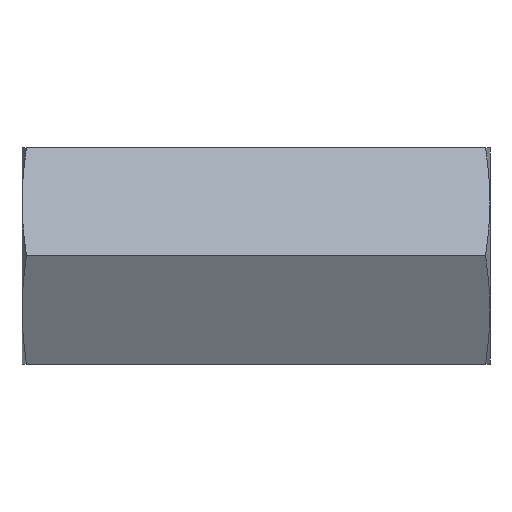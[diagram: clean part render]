
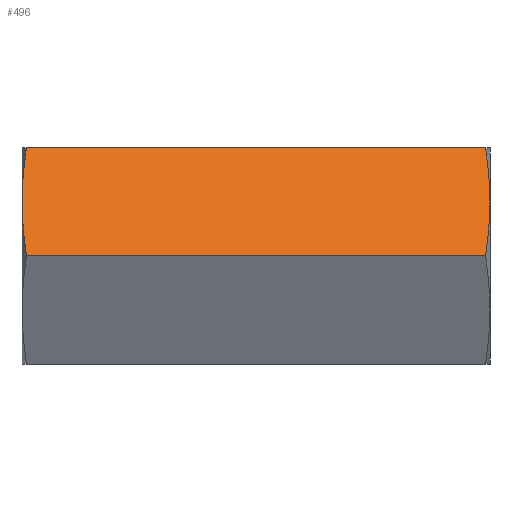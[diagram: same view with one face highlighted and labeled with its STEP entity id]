
A CAD part, top view. The second image highlights one B-rep face of the part: STEP entity #496.
In plain terms, the highlighted planar face has unit normal (0, 0.5, 0.866).
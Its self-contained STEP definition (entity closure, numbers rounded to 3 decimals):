
#496 = ADVANCED_FACE( '', ( #1134 ), #1135, .F. );
#1134 = FACE_OUTER_BOUND( '', #6307, .T. );
#1135 = PLANE( '', #6308 );
#6307 = EDGE_LOOP( '', ( #19270, #19271, #19272, #19273, #19274, #19275, #19276, #19277, #19278, #19279 ) );
#6308 = AXIS2_PLACEMENT_3D( '', #19280, #19281, #19282 );
#19270 = ORIENTED_EDGE( '', *, *, #21163, .F. );
#19271 = ORIENTED_EDGE( '', *, *, #21364, .T. );
#19272 = ORIENTED_EDGE( '', *, *, #21137, .T. );
#19273 = ORIENTED_EDGE( '', *, *, #21365, .T. );
#19274 = ORIENTED_EDGE( '', *, *, #21298, .T. );
#19275 = ORIENTED_EDGE( '', *, *, #21366, .T. );
#19276 = ORIENTED_EDGE( '', *, *, #21278, .F. );
#19277 = ORIENTED_EDGE( '', *, *, #21367, .F. );
#19278 = ORIENTED_EDGE( '', *, *, #21250, .F. );
#19279 = ORIENTED_EDGE( '', *, *, #21368, .F. );
#19280 = CARTESIAN_POINT( '', ( 54.94, 12.7, 7.332 ) );
#19281 = DIRECTION( '', ( 0., -0.5, -0.866 ) );
#19282 = DIRECTION( '', ( 0., 0.866, -0.5 ) );
#21137 = EDGE_CURVE( '', #22214, #22216, #22218, .T. );
#21163 = EDGE_CURVE( '', #22258, #22259, #22260, .T. );
#21250 = EDGE_CURVE( '', #22394, #22012, #22396, .T. );
#21278 = EDGE_CURVE( '', #22438, #22440, #22441, .T. );
#21298 = EDGE_CURVE( '', #22472, #22473, #22474, .T. );
#21364 = EDGE_CURVE( '', #22258, #22214, #22573, .T. );
#21365 = EDGE_CURVE( '', #22216, #22472, #22574, .T. );
#21366 = EDGE_CURVE( '', #22473, #22440, #22575, .T. );
#21367 = EDGE_CURVE( '', #22012, #22438, #22576, .T. );
#21368 = EDGE_CURVE( '', #22259, #22394, #22577, .T. );
#22012 = VERTEX_POINT( '', #27852 );
#22214 = VERTEX_POINT( '', #28326 );
#22216 = VERTEX_POINT( '', #28338 );
#22218 = B_SPLINE_CURVE_WITH_KNOTS( '', 3, ( #28340, #28341, #28342, #28343, #28344, #28345, #28346, #28347, #28348, #28349, #28350 ), .UNSPECIFIED., .F., .F., ( 4, 2, 2, 2, 1, 4 ), ( 0., 0.002, 0.003, 0.005, 0.006, 0.006 ), .UNSPECIFIED. );
#22258 = VERTEX_POINT( '', #28414 );
#22259 = VERTEX_POINT( '', #28415 );
#22260 = B_SPLINE_CURVE_WITH_KNOTS( '', 3, ( #28416, #28417, #28418, #28419, #28420, #28421, #28422, #28423, #28424, #28425, #28426 ), .UNSPECIFIED., .F., .F., ( 4, 2, 2, 2, 1, 4 ), ( 0., 0.002, 0.003, 0.005, 0.006, 0.006 ), .UNSPECIFIED. );
#22394 = VERTEX_POINT( '', #32609 );
#22396 = B_SPLINE_CURVE_WITH_KNOTS( '', 3, ( #32614, #32615, #32616, #32617 ), .UNSPECIFIED., .F., .F., ( 4, 4 ), ( 0.007, 0.008 ), .UNSPECIFIED. );
#22438 = VERTEX_POINT( '', #32683 );
#22440 = VERTEX_POINT( '', #32695 );
#22441 = LINE( '', #32696, #32697 );
#22472 = VERTEX_POINT( '', #32772 );
#22473 = VERTEX_POINT( '', #32773 );
#22474 = B_SPLINE_CURVE_WITH_KNOTS( '', 3, ( #32774, #32775, #32776, #32777 ), .UNSPECIFIED., .F., .F., ( 4, 4 ), ( 0.007, 0.008 ), .UNSPECIFIED. );
#22573 = LINE( '', #33192, #33193 );
#22574 = B_SPLINE_CURVE_WITH_KNOTS( '', 3, ( #33194, #33195, #33196, #33197 ), .UNSPECIFIED., .F., .F., ( 4, 4 ), ( 0.006, 0.007 ), .UNSPECIFIED. );
#22575 = B_SPLINE_CURVE_WITH_KNOTS( '', 3, ( #33198, #33199, #33200, #33201, #33202, #33203, #33204, #33205, #33206, #33207, #33208 ), .UNSPECIFIED., .F., .F., ( 4, 1, 2, 2, 2, 4 ), ( 0.008, 0.009, 0.01, 0.011, 0.013, 0.015 ), .UNSPECIFIED. );
#22576 = B_SPLINE_CURVE_WITH_KNOTS( '', 3, ( #33209, #33210, #33211, #33212, #33213, #33214, #33215, #33216, #33217, #33218, #33219 ), .UNSPECIFIED., .F., .F., ( 4, 1, 2, 2, 2, 4 ), ( 0.008, 0.009, 0.01, 0.011, 0.013, 0.015 ), .UNSPECIFIED. );
#22577 = B_SPLINE_CURVE_WITH_KNOTS( '', 3, ( #33220, #33221, #33222, #33223 ), .UNSPECIFIED., .F., .F., ( 4, 4 ), ( 0.006, 0.007 ), .UNSPECIFIED. );
#27852 = CARTESIAN_POINT( '', ( 54.932, 5.565, 11.452 ) );
#28326 = CARTESIAN_POINT( '', ( 0.526, 12.7, 7.332 ) );
#28338 = CARTESIAN_POINT( '', ( 0.009, 7.135, 10.545 ) );
#28340 = CARTESIAN_POINT( '', ( 0.526, 12.7, 7.332 ) );
#28341 = CARTESIAN_POINT( '', ( 0.455, 12.236, 7.6 ) );
#28342 = CARTESIAN_POINT( '', ( 0.389, 11.772, 7.868 ) );
#28343 = CARTESIAN_POINT( '', ( 0.271, 10.845, 8.403 ) );
#28344 = CARTESIAN_POINT( '', ( 0.219, 10.381, 8.671 ) );
#28345 = CARTESIAN_POINT( '', ( 0.13, 9.454, 9.207 ) );
#28346 = CARTESIAN_POINT( '', ( 0.094, 8.99, 9.474 ) );
#28347 = CARTESIAN_POINT( '', ( 0.052, 8.294, 9.876 ) );
#28348 = CARTESIAN_POINT( '', ( 0.028, 7.831, 10.144 ) );
#28349 = CARTESIAN_POINT( '', ( 0.014, 7.367, 10.411 ) );
#28350 = CARTESIAN_POINT( '', ( 0.009, 7.135, 10.545 ) );
#28414 = CARTESIAN_POINT( '', ( 54.414, 12.7, 7.332 ) );
#28415 = CARTESIAN_POINT( '', ( 54.932, 7.135, 10.545 ) );
#28416 = CARTESIAN_POINT( '', ( 54.414, 12.7, 7.332 ) );
#28417 = CARTESIAN_POINT( '', ( 54.486, 12.236, 7.6 ) );
#28418 = CARTESIAN_POINT( '', ( 54.551, 11.772, 7.868 ) );
#28419 = CARTESIAN_POINT( '', ( 54.669, 10.845, 8.403 ) );
#28420 = CARTESIAN_POINT( '', ( 54.721, 10.381, 8.671 ) );
#28421 = CARTESIAN_POINT( '', ( 54.81, 9.454, 9.207 ) );
#28422 = CARTESIAN_POINT( '', ( 54.846, 8.99, 9.474 ) );
#28423 = CARTESIAN_POINT( '', ( 54.888, 8.294, 9.876 ) );
#28424 = CARTESIAN_POINT( '', ( 54.912, 7.831, 10.144 ) );
#28425 = CARTESIAN_POINT( '', ( 54.926, 7.367, 10.411 ) );
#28426 = CARTESIAN_POINT( '', ( 54.932, 7.135, 10.545 ) );
#32609 = CARTESIAN_POINT( '', ( 54.94, 6.35, 10.999 ) );
#32614 = CARTESIAN_POINT( '', ( 54.94, 6.35, 10.999 ) );
#32615 = CARTESIAN_POINT( '', ( 54.94, 6.088, 11.15 ) );
#32616 = CARTESIAN_POINT( '', ( 54.937, 5.827, 11.301 ) );
#32617 = CARTESIAN_POINT( '', ( 54.932, 5.565, 11.452 ) );
#32683 = CARTESIAN_POINT( '', ( 54.414, 0., 14.665 ) );
#32695 = CARTESIAN_POINT( '', ( 0.526, 0., 14.665 ) );
#32696 = CARTESIAN_POINT( '', ( 54.94, 0., 14.665 ) );
#32697 = VECTOR( '', #42749, 1000. );
#32772 = CARTESIAN_POINT( '', ( 0., 6.35, 10.999 ) );
#32773 = CARTESIAN_POINT( '', ( 0.009, 5.565, 11.452 ) );
#32774 = CARTESIAN_POINT( '', ( 0., 6.35, 10.999 ) );
#32775 = CARTESIAN_POINT( '', ( 0., 6.088, 11.15 ) );
#32776 = CARTESIAN_POINT( '', ( 0.003, 5.827, 11.301 ) );
#32777 = CARTESIAN_POINT( '', ( 0.009, 5.565, 11.452 ) );
#33192 = CARTESIAN_POINT( '', ( 54.94, 12.7, 7.332 ) );
#33193 = VECTOR( '', #42797, 1000. );
#33194 = CARTESIAN_POINT( '', ( 0.009, 7.135, 10.545 ) );
#33195 = CARTESIAN_POINT( '', ( 0.003, 6.873, 10.696 ) );
#33196 = CARTESIAN_POINT( '', ( 0., 6.612, 10.847 ) );
#33197 = CARTESIAN_POINT( '', ( 0., 6.35, 10.999 ) );
#33198 = CARTESIAN_POINT( '', ( 0.009, 5.565, 11.452 ) );
#33199 = CARTESIAN_POINT( '', ( 0.014, 5.333, 11.586 ) );
#33200 = CARTESIAN_POINT( '', ( 0.028, 4.869, 11.853 ) );
#33201 = CARTESIAN_POINT( '', ( 0.052, 4.406, 12.121 ) );
#33202 = CARTESIAN_POINT( '', ( 0.094, 3.71, 12.523 ) );
#33203 = CARTESIAN_POINT( '', ( 0.13, 3.246, 12.79 ) );
#33204 = CARTESIAN_POINT( '', ( 0.219, 2.319, 13.326 ) );
#33205 = CARTESIAN_POINT( '', ( 0.271, 1.855, 13.594 ) );
#33206 = CARTESIAN_POINT( '', ( 0.389, 0.928, 14.129 ) );
#33207 = CARTESIAN_POINT( '', ( 0.455, 0.464, 14.397 ) );
#33208 = CARTESIAN_POINT( '', ( 0.526, 0., 14.665 ) );
#33209 = CARTESIAN_POINT( '', ( 54.932, 5.565, 11.452 ) );
#33210 = CARTESIAN_POINT( '', ( 54.926, 5.333, 11.586 ) );
#33211 = CARTESIAN_POINT( '', ( 54.912, 4.869, 11.853 ) );
#33212 = CARTESIAN_POINT( '', ( 54.888, 4.406, 12.121 ) );
#33213 = CARTESIAN_POINT( '', ( 54.846, 3.71, 12.523 ) );
#33214 = CARTESIAN_POINT( '', ( 54.81, 3.246, 12.79 ) );
#33215 = CARTESIAN_POINT( '', ( 54.721, 2.319, 13.326 ) );
#33216 = CARTESIAN_POINT( '', ( 54.669, 1.855, 13.594 ) );
#33217 = CARTESIAN_POINT( '', ( 54.551, 0.928, 14.129 ) );
#33218 = CARTESIAN_POINT( '', ( 54.486, 0.464, 14.397 ) );
#33219 = CARTESIAN_POINT( '', ( 54.414, 0., 14.665 ) );
#33220 = CARTESIAN_POINT( '', ( 54.932, 7.135, 10.545 ) );
#33221 = CARTESIAN_POINT( '', ( 54.937, 6.873, 10.696 ) );
#33222 = CARTESIAN_POINT( '', ( 54.94, 6.612, 10.847 ) );
#33223 = CARTESIAN_POINT( '', ( 54.94, 6.35, 10.999 ) );
#42749 = DIRECTION( '', ( -1., 0., 0. ) );
#42797 = DIRECTION( '', ( -1., 0., 0. ) );
